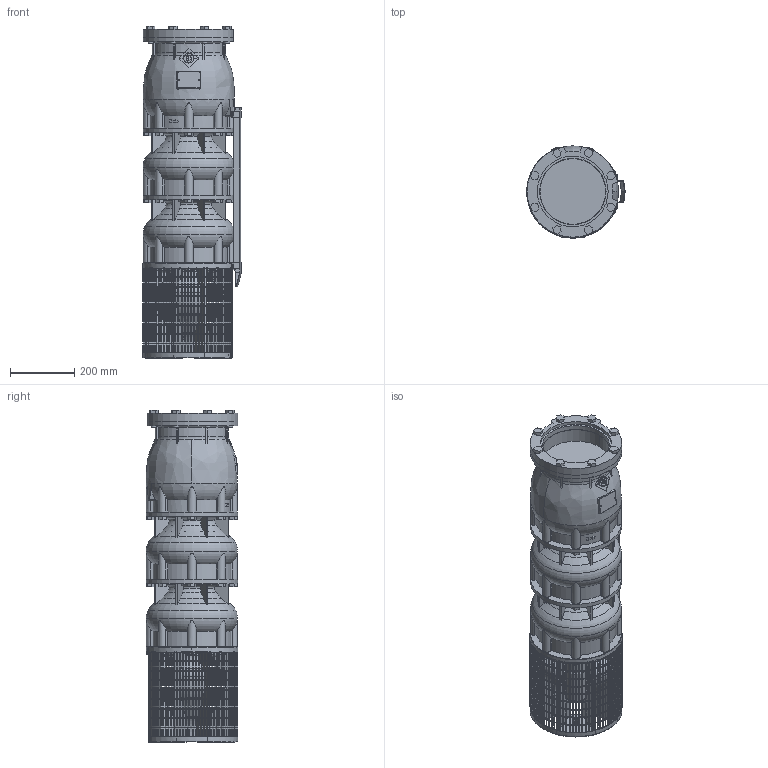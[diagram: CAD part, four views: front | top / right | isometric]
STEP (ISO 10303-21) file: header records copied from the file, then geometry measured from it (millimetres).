
FILE_DESCRIPTION(/* description */ ('-'),/* implementation_level */ '2;1');
FILE_NAME(/* name */ 'VSI344-2-1B_WF_M8-50_DLE',/* time_stamp */ '2026-01-21T10:11:54+01:00',/* author */ ('Simonelli M.'),/* organization */ ('Franklin Electric Srl'),/* preprocessor_version */ 'ST-DEVELOPER v18.102',/* originating_system */ 'Solid Edge',/* authorisation */ 'Unknown');
FILE_SCHEMA (('AUTOMOTIVE_DESIGN {1 0 10303 214 3 1 1}'));
Products named in the file (12): VSI344-2-1B_WF_M8-50_DLE; VSI344-454_testata; VSI344-454_supporto; VSI344-454_filtro_A; VSI344-454_filtro_B; VSI344-454_terminale_top_copricavo_basso; VSI344-454_terminale_bottom_copricavo_basso; LOW 334-2; VSI344_diffusore; M5X8_UNI7687; VSI184-254_giunto_10×8; VSI344-454_flangia_testata
Assembly tree (21 placements, depth 2):
  VSI344-2-1B_WF_M8-50_DLE
    VSI344-454_testata
    VSI344-454_supporto
    VSI344-454_filtro_A
    VSI344-454_filtro_B
    VSI344-454_terminale_top_copricavo_basso
    VSI344-454_terminale_bottom_copricavo_basso
    LOW 334-2
    VSI344_diffusore  x2
    M5X8_UNI7687  x10
    VSI184-254_giunto_10×8
    VSI344-454_flangia_testata
Bounding box: 306.94 x 286 x 1035 mm (x, y, z)
Volume: 38169883.8 mm3; surface area: 2351666.6 mm2
Topology: 86 solids, 86 shells, 4085 faces, 11515 edges, 7649 vertices
Faces by surface type: plane 3313, cylinder 495, torus 175, cone 77, bspline 15, sphere 10
Full cylindrical faces by diameter (mm): 5 x10, 16 x8, 35 x1, 65 x1, 69 x1, 150 x1, 207 x1, 220.5 x1, 285 x2
Entity records: 127584 total; most frequent: CARTESIAN_POINT 28629, ORIENTED_EDGE 20792, DIRECTION 19890, EDGE_CURVE 10396, VERTEX_POINT 6933, AXIS2_PLACEMENT_3D 6716, LINE 6458, VECTOR 6458
